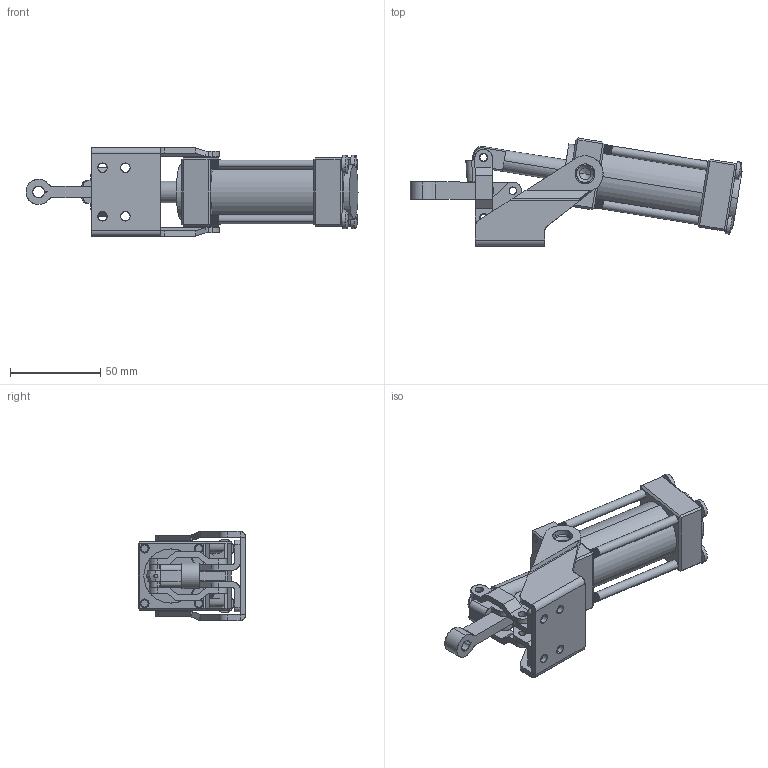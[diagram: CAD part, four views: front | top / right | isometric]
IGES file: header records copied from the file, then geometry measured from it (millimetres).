
Start section: SolidWorks IGES file using analytic representation for surfaces
Global section: file name: D:\GH Files\GH-SW-FILES\GH-A\12050A\12050A.IGS; native system: SolidWorks 2006 by SolidWorks Corporation; preprocessor: SolidWorks 2006 by SolidWorks Corporation; author: Administrator; date: 060526.115836; units: millimetre
Bounding box: 184.25 x 59.87 x 49.4 mm (x, y, z)
Surface area: 63279.2 mm2 (no closed solid volume)
Topology: 0 solids, 0 shells, 1118 faces, 10571 edges, 10559 vertices
Faces by surface type: revolution 858, bspline 260
